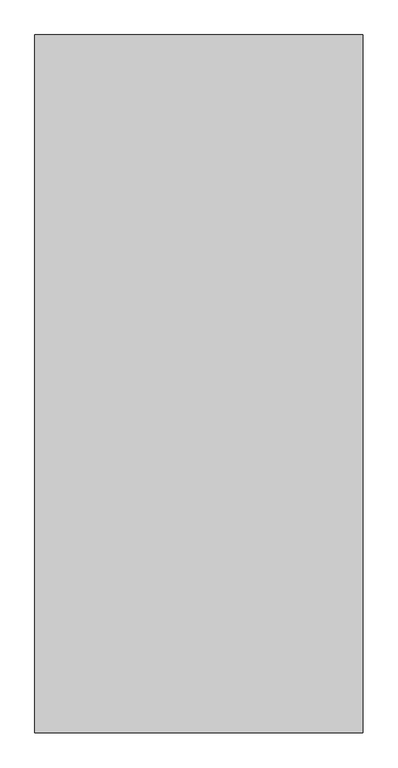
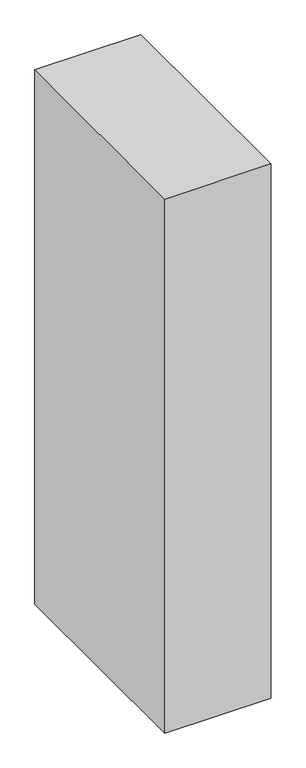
"""IFC4 building model written with IfcOpenShell, lengths in millimetres: column geometry, M_混凝土-矩形-柱 : RC柱60*127.5."""

from ifc_helpers import new_model, si_unit, frame, origin, place, context, project, spatial, polyline, outline, extrude, source, transform, mapped, element, save


def column_e361dc68(model_context):
    return source(origin(), model_context, "Body", "SweptSolid", [
        extrude(outline(polyline([(300.0, 637.5), (300.0, -637.5), (-300.0, -637.5), (-300.0, 637.5), (300.0, 637.5)])), frame((0.0, 0.0, 8000.0), z_axis=(0.0, 0.0, 1.0), x_axis=(1.0, 0.0, 0.0)), (0.0, 0.0, 1.0), 3200.0),
    ])


if __name__ == "__main__":
    model = new_model("IFC4")
    model_context = context("Model", 3, world=origin())
    ifc_project = project(units=[si_unit("LENGTHUNIT", "METRE", prefix="MILLI")], contexts=[model_context])
    site = spatial("IfcSite", under=ifc_project)
    building = spatial("IfcBuilding", under=site)
    placement = place(None, origin())
    column_shape = column_e361dc68(model_context)
    element("IfcColumn", 1, ObjectType="M_混凝土-矩形-柱 : RC柱60*127.5", at=placement, inside=building, context=model_context, shape_type="MappedRepresentation", body=[
        mapped(column_shape, transform((0.0, 0.0, 0.0), x_axis=(1.0, 0.0, 0.0), y_axis=(0.0, 1.0, 0.0), z_axis=(0.0, 0.0, 1.0))),
    ])
    save(model, "model.ifc")
